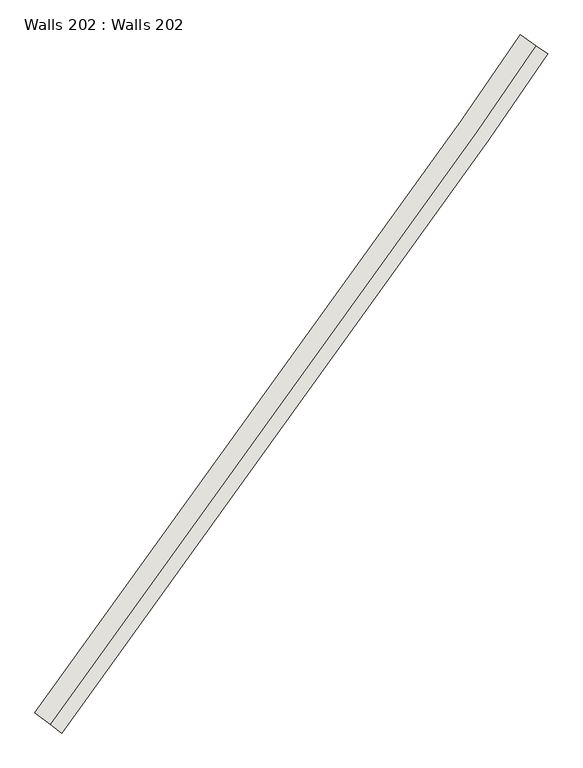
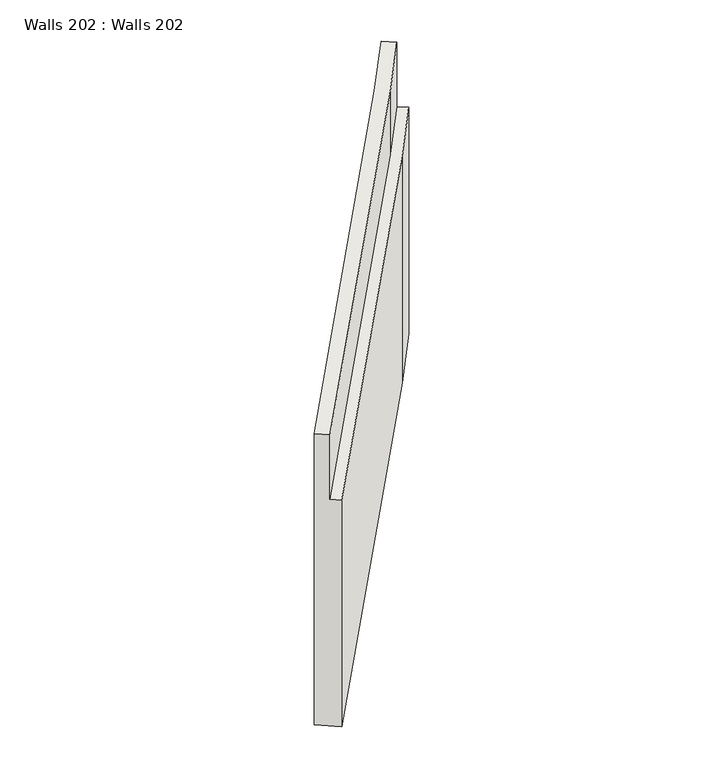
"""IFC4 building model written with IfcOpenShell, lengths in millimetres: wall geometry, Walls 202 : Walls 202."""

from ifc_helpers import new_model, si_unit, frame, origin, place, context, project, spatial, polyline, circle_curve, source, transform, mapped, element, save
from ifc_brep_helpers import plane_surface, cylinder_surface, revolved_surface, advanced_brep


def walls_202_walls_202_d35ad584(model_context):
    return source(origin(), model_context, "Body", "AdvancedBrep", [
        advanced_brep(
        [(565469.4722579, 476369.9616388, 658567.0), (565469.4722579, 476369.9616388, 654067.0), (565749.0182636, 476159.3576724, 654067.0), (565749.0182636, 476159.3576724, 657567.0), (565629.2128326, 476249.6165151, 657567.0), (565629.2128326, 476249.6165151, 658567.0), (569916.545207, 482547.9329734, 654067.0), (569916.545207, 482547.9329734, 658567.0), (570204.9853586, 482349.6849496, 654067.0), (570532.4270967, 483444.007811, 654067.0), (570820.8672484, 483245.7597872, 654067.0), (570204.9853586, 482349.6849496, 657567.0), (570081.3681507, 482434.6483884, 657567.0), (570820.8672484, 483245.7597872, 657567.0), (570697.2500405, 483330.723226, 657567.0), (570081.3681507, 482434.6483884, 658567.0), (570697.2500405, 483330.723226, 658567.0), (570532.4270967, 483444.007811, 658567.0)],
        [
            (0, 1),
            (1, 2),
            (2, 3),
            (3, 4),
            (4, 5),
            (5, 0),
            (6, 1, circle_curve(frame((425696.469057, 581671.9451099, 654067.0), z_axis=(0.0, 0.0, -1.0), x_axis=(0.7987028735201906, -0.6017256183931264, 0.0)), 175000.0004192)),
            (0, 7, circle_curve(frame((425696.469057, 581671.9451099, 658567.0), z_axis=(0.0, 0.0, 1.0), x_axis=(0.7987028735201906, -0.6017256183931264, 0.0)), 175000.0004192)),
            (7, 6),
            (8, 2, circle_curve(frame((425696.469057, 581671.9451099, 654067.0), z_axis=(0.0, 0.0, -1.0), x_axis=(0.7987028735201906, -0.6017256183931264, 0.0)), 175350.0004192)),
            (6, 9),
            (9, 10),
            (10, 8),
            (11, 3, circle_curve(frame((425696.469057, 581671.9451099, 657567.0), z_axis=(0.0, 0.0, -1.0), x_axis=(0.7987028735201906, -0.6017256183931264, 0.0)), 175350.0004192)),
            (8, 11),
            (12, 4, circle_curve(frame((425696.469057, 581671.9451099, 657567.0), z_axis=(0.0, 0.0, -1.0), x_axis=(0.7987028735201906, -0.6017256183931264, 0.0)), 175200.0004192)),
            (11, 13),
            (13, 14),
            (14, 12),
            (15, 5, circle_curve(frame((425696.469057, 581671.9451099, 658567.0), z_axis=(0.0, 0.0, -1.0), x_axis=(0.7987028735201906, -0.6017256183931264, 0.0)), 175200.0004192)),
            (12, 15),
            (15, 16),
            (16, 17),
            (17, 7),
            (16, 14),
            (13, 10),
            (9, 17),
        ],
        [
            plane_surface(frame((565469.4722579, 476369.9616388, 0.0), z_axis=(-0.6017256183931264, -0.7987028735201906, 0.0), x_axis=(0.0, 0.0, 1.0))),
            revolved_surface(polyline([(565469.4722578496, 476369.9616388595, 658567.0), (565469.4722578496, 476369.9616388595, 654067.0)]), (425696.469057, 581671.9451099, 0.0), (0.0, 0.0, 1.0)),
            plane_surface(frame((425696.469057, 581671.9451099, 654067.0), z_axis=(0.0, 0.0, -1.0), x_axis=(0.7987028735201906, -0.6017256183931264, 0.0))),
            cylinder_surface(frame((425696.469057, 581671.9451099, 0.0), z_axis=(0.0, 0.0, 1.0), x_axis=(0.7987028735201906, -0.6017256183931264, 0.0)), 175350.0004192),
            plane_surface(frame((425696.469057, 581671.9451099, 657567.0), z_axis=(0.0, 0.0, 1.0), x_axis=(0.7987028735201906, -0.6017256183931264, 0.0))),
            cylinder_surface(frame((425696.469057, 581671.9451099, 0.0), z_axis=(0.0, 0.0, 1.0), x_axis=(0.7987028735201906, -0.6017256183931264, 0.0)), 175200.0004192),
            plane_surface(frame((425696.469057, 581671.9451099, 658567.0), z_axis=(0.0, 0.0, 1.0), x_axis=(0.7987028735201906, -0.6017256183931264, 0.0))),
            plane_surface(frame((570532.4270967, 483444.007811, 0.0), z_axis=(0.5664229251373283, 0.8241147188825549, 0.0), x_axis=(0.0, 0.0, 1.0))),
            plane_surface(frame((569916.5452068, 482547.9329735, 658567.0), z_axis=(-0.8241147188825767, 0.5664229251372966, 0.0), x_axis=(0.5664229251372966, 0.8241147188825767, 0.0))),
            plane_surface(frame((570204.9853584, 482349.6849497, 654067.0), z_axis=(0.8241147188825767, -0.5664229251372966, 0.0), x_axis=(0.5664229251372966, 0.8241147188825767, 0.0))),
            plane_surface(frame((570081.3681506, 482434.6483885, 657567.0), z_axis=(0.8241147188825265, -0.5664229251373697, 0.0), x_axis=(0.5664229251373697, 0.8241147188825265, 0.0))),
        ],
        [
            (0, [[1, 2, 3, 4, 5, 6]]),
            (1, [[7, -1, 8, 9]]),
            (2, [[10, -2, -7, 11, 12, 13]]),
            (3, [[14, -3, -10, 15]]),
            (4, [[16, -4, -14, 17, 18, 19]]),
            (5, [[20, -5, -16, 21]]),
            (6, [[-8, -6, -20, 22, 23, 24]]),
            (7, [[-23, 25, -18, 26, -12, 27]]),
            (8, [[-9, -24, -27, -11]]),
            (9, [[-15, -13, -26, -17]]),
            (10, [[-21, -19, -25, -22]]),
        ],
    ),
    ])


if __name__ == "__main__":
    model = new_model("IFC4")
    model_context = context("Model", 3, world=origin())
    ifc_project = project(units=[si_unit("LENGTHUNIT", "METRE", prefix="MILLI")], contexts=[model_context])
    site = spatial("IfcSite", under=ifc_project)
    building = spatial("IfcBuilding", under=site)
    placement = place(None, origin())
    walls_202_walls_202_shape = walls_202_walls_202_d35ad584(model_context)
    element("IfcWall", 1, ObjectType="Walls 202 : Walls 202", at=placement, inside=building, context=model_context, shape_type="MappedRepresentation", body=[
        mapped(walls_202_walls_202_shape, transform((0.0, 0.0, 0.0), x_axis=(1.0, 0.0, 0.0), y_axis=(0.0, 1.0, 0.0), z_axis=(0.0, 0.0, 1.0))),
    ])
    save(model, "model.ifc")
